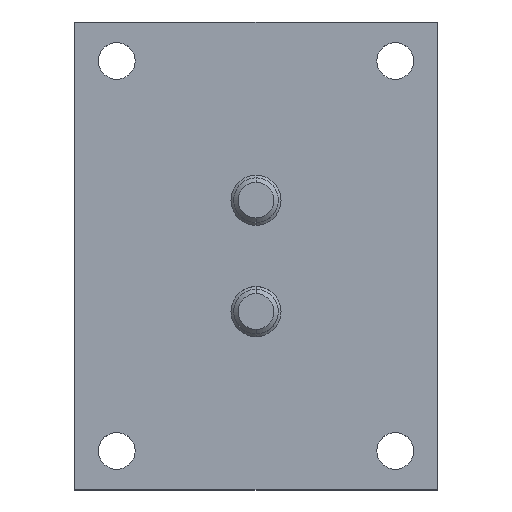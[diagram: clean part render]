
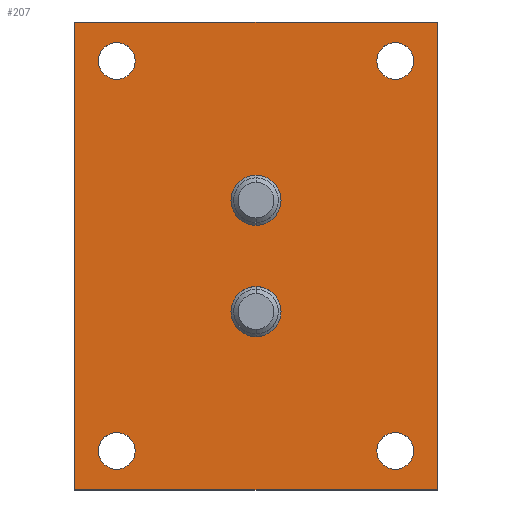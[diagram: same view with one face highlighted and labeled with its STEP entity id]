
A CAD part, top view. The second image highlights one B-rep face of the part: STEP entity #207.
In plain terms, the highlighted planar face has unit normal (0, 0, 1).
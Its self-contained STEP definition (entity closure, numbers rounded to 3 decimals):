
#101=FACE_BOUND('',#331,.T.);
#102=FACE_BOUND('',#332,.T.);
#103=FACE_BOUND('',#333,.T.);
#104=FACE_BOUND('',#334,.T.);
#105=FACE_BOUND('',#335,.T.);
#106=FACE_BOUND('',#336,.T.);
#107=FACE_BOUND('',#337,.T.);
#148=CIRCLE('',#975,3.3);
#150=CIRCLE('',#978,3.3);
#152=CIRCLE('',#981,3.3);
#154=CIRCLE('',#984,3.3);
#156=CIRCLE('',#987,3.3);
#158=CIRCLE('',#990,3.3);
#160=CIRCLE('',#993,3.3);
#162=CIRCLE('',#996,3.3);
#164=CIRCLE('',#999,4.5);
#166=CIRCLE('',#1002,4.5);
#169=CIRCLE('',#1008,4.5);
#170=CIRCLE('',#1009,4.5);
#207=ADVANCED_FACE('',(#101,#102,#103,#104,#105,#106,#107),#247,.T.);
#247=PLANE('',#1010);
#331=EDGE_LOOP('',(#445,#446,#447,#448));
#332=EDGE_LOOP('',(#449,#450));
#333=EDGE_LOOP('',(#451,#452));
#334=EDGE_LOOP('',(#453,#454));
#335=EDGE_LOOP('',(#455,#456));
#336=EDGE_LOOP('',(#457,#458));
#337=EDGE_LOOP('',(#459,#460));
#445=ORIENTED_EDGE('',*,*,#698,.T.);
#446=ORIENTED_EDGE('',*,*,#702,.T.);
#447=ORIENTED_EDGE('',*,*,#705,.T.);
#448=ORIENTED_EDGE('',*,*,#708,.T.);
#449=ORIENTED_EDGE('',*,*,#743,.F.);
#450=ORIENTED_EDGE('',*,*,#744,.F.);
#451=ORIENTED_EDGE('',*,*,#712,.T.);
#452=ORIENTED_EDGE('',*,*,#714,.T.);
#453=ORIENTED_EDGE('',*,*,#718,.T.);
#454=ORIENTED_EDGE('',*,*,#720,.T.);
#455=ORIENTED_EDGE('',*,*,#724,.T.);
#456=ORIENTED_EDGE('',*,*,#726,.T.);
#457=ORIENTED_EDGE('',*,*,#730,.T.);
#458=ORIENTED_EDGE('',*,*,#732,.T.);
#459=ORIENTED_EDGE('',*,*,#735,.T.);
#460=ORIENTED_EDGE('',*,*,#738,.T.);
#622=VERTEX_POINT('',#1339);
#623=VERTEX_POINT('',#1341);
#626=VERTEX_POINT('',#1348);
#628=VERTEX_POINT('',#1354);
#630=VERTEX_POINT('',#1363);
#632=VERTEX_POINT('',#1367);
#634=VERTEX_POINT('',#1375);
#636=VERTEX_POINT('',#1379);
#638=VERTEX_POINT('',#1387);
#640=VERTEX_POINT('',#1391);
#642=VERTEX_POINT('',#1399);
#644=VERTEX_POINT('',#1403);
#647=VERTEX_POINT('',#1413);
#648=VERTEX_POINT('',#1415);
#651=VERTEX_POINT('',#1430);
#652=VERTEX_POINT('',#1431);
#698=EDGE_CURVE('',#623,#622,#818,.T.);
#702=EDGE_CURVE('',#622,#626,#822,.T.);
#705=EDGE_CURVE('',#626,#628,#825,.T.);
#708=EDGE_CURVE('',#628,#623,#828,.T.);
#712=EDGE_CURVE('',#630,#632,#148,.T.);
#714=EDGE_CURVE('',#632,#630,#150,.T.);
#718=EDGE_CURVE('',#634,#636,#152,.T.);
#720=EDGE_CURVE('',#636,#634,#154,.T.);
#724=EDGE_CURVE('',#638,#640,#156,.T.);
#726=EDGE_CURVE('',#640,#638,#158,.T.);
#730=EDGE_CURVE('',#642,#644,#160,.T.);
#732=EDGE_CURVE('',#644,#642,#162,.T.);
#735=EDGE_CURVE('',#648,#647,#164,.T.);
#738=EDGE_CURVE('',#647,#648,#166,.T.);
#743=EDGE_CURVE('',#651,#652,#169,.T.);
#744=EDGE_CURVE('',#652,#651,#170,.T.);
#818=LINE('',#1340,#894);
#822=LINE('',#1349,#898);
#825=LINE('',#1355,#901);
#828=LINE('',#1359,#904);
#894=VECTOR('',#1069,1.);
#898=VECTOR('',#1075,1.);
#901=VECTOR('',#1080,1.);
#904=VECTOR('',#1085,1.);
#975=AXIS2_PLACEMENT_3D('',#1368,#1092,#1093);
#978=AXIS2_PLACEMENT_3D('',#1371,#1098,#1099);
#981=AXIS2_PLACEMENT_3D('',#1380,#1106,#1107);
#984=AXIS2_PLACEMENT_3D('',#1383,#1112,#1113);
#987=AXIS2_PLACEMENT_3D('',#1392,#1120,#1121);
#990=AXIS2_PLACEMENT_3D('',#1395,#1126,#1127);
#993=AXIS2_PLACEMENT_3D('',#1404,#1134,#1135);
#996=AXIS2_PLACEMENT_3D('',#1407,#1140,#1141);
#999=AXIS2_PLACEMENT_3D('',#1414,#1147,#1148);
#1002=AXIS2_PLACEMENT_3D('',#1419,#1154,#1155);
#1008=AXIS2_PLACEMENT_3D('',#1429,#1168,#1169);
#1009=AXIS2_PLACEMENT_3D('',#1432,#1170,#1171);
#1010=AXIS2_PLACEMENT_3D('',#1433,#1172,#1173);
#1069=DIRECTION('',(0.,-1.,0.));
#1075=DIRECTION('',(1.,0.,0.));
#1080=DIRECTION('',(0.,1.,0.));
#1085=DIRECTION('',(-1.,0.,0.));
#1092=DIRECTION('',(0.,0.,-1.));
#1093=DIRECTION('',(-1.,0.,0.));
#1098=DIRECTION('',(0.,0.,-1.));
#1099=DIRECTION('',(1.,0.,0.));
#1106=DIRECTION('',(0.,0.,-1.));
#1107=DIRECTION('',(-1.,0.,0.));
#1112=DIRECTION('',(0.,0.,-1.));
#1113=DIRECTION('',(1.,0.,0.));
#1120=DIRECTION('',(0.,0.,-1.));
#1121=DIRECTION('',(-1.,0.,0.));
#1126=DIRECTION('',(0.,0.,-1.));
#1127=DIRECTION('',(1.,0.,0.));
#1134=DIRECTION('',(0.,0.,-1.));
#1135=DIRECTION('',(-1.,0.,0.));
#1140=DIRECTION('',(0.,0.,-1.));
#1141=DIRECTION('',(1.,0.,0.));
#1147=DIRECTION('',(0.,0.,-1.));
#1148=DIRECTION('',(-1.,0.,0.));
#1154=DIRECTION('',(0.,0.,-1.));
#1155=DIRECTION('',(1.,0.,0.));
#1168=DIRECTION('',(0.,0.,1.));
#1169=DIRECTION('',(-1.,0.,0.));
#1170=DIRECTION('',(0.,0.,1.));
#1171=DIRECTION('',(1.,0.,0.));
#1172=DIRECTION('',(0.,0.,1.));
#1173=DIRECTION('',(-1.,0.,0.));
#1339=CARTESIAN_POINT('',(-32.5,-42.,9.));
#1340=CARTESIAN_POINT('',(-32.5,42.,9.));
#1341=CARTESIAN_POINT('',(-32.5,42.,9.));
#1348=CARTESIAN_POINT('',(32.5,-42.,9.));
#1349=CARTESIAN_POINT('',(-32.5,-42.,9.));
#1354=CARTESIAN_POINT('',(32.5,42.,9.));
#1355=CARTESIAN_POINT('',(32.5,42.,9.));
#1359=CARTESIAN_POINT('',(-32.5,42.,9.));
#1363=CARTESIAN_POINT('',(25.,38.3,9.));
#1367=CARTESIAN_POINT('',(25.,31.7,9.));
#1368=CARTESIAN_POINT('',(25.,35.,9.));
#1371=CARTESIAN_POINT('',(25.,35.,9.));
#1375=CARTESIAN_POINT('',(-25.,38.3,9.));
#1379=CARTESIAN_POINT('',(-25.,31.7,9.));
#1380=CARTESIAN_POINT('',(-25.,35.,9.));
#1383=CARTESIAN_POINT('',(-25.,35.,9.));
#1387=CARTESIAN_POINT('',(-25.,-31.7,9.));
#1391=CARTESIAN_POINT('',(-25.,-38.3,9.));
#1392=CARTESIAN_POINT('',(-25.,-35.,9.));
#1395=CARTESIAN_POINT('',(-25.,-35.,9.));
#1399=CARTESIAN_POINT('',(25.,-31.7,9.));
#1403=CARTESIAN_POINT('',(25.,-38.3,9.));
#1404=CARTESIAN_POINT('',(25.,-35.,9.));
#1407=CARTESIAN_POINT('',(25.,-35.,9.));
#1413=CARTESIAN_POINT('',(0.,5.5,9.));
#1414=CARTESIAN_POINT('',(0.,10.,9.));
#1415=CARTESIAN_POINT('',(0.,14.5,9.));
#1419=CARTESIAN_POINT('',(0.,10.,9.));
#1429=CARTESIAN_POINT('',(0.,-10.,9.));
#1430=CARTESIAN_POINT('',(0.,-14.5,9.));
#1431=CARTESIAN_POINT('',(0.,-5.5,9.));
#1432=CARTESIAN_POINT('',(0.,-10.,9.));
#1433=CARTESIAN_POINT('',(-32.5,42.,9.));
